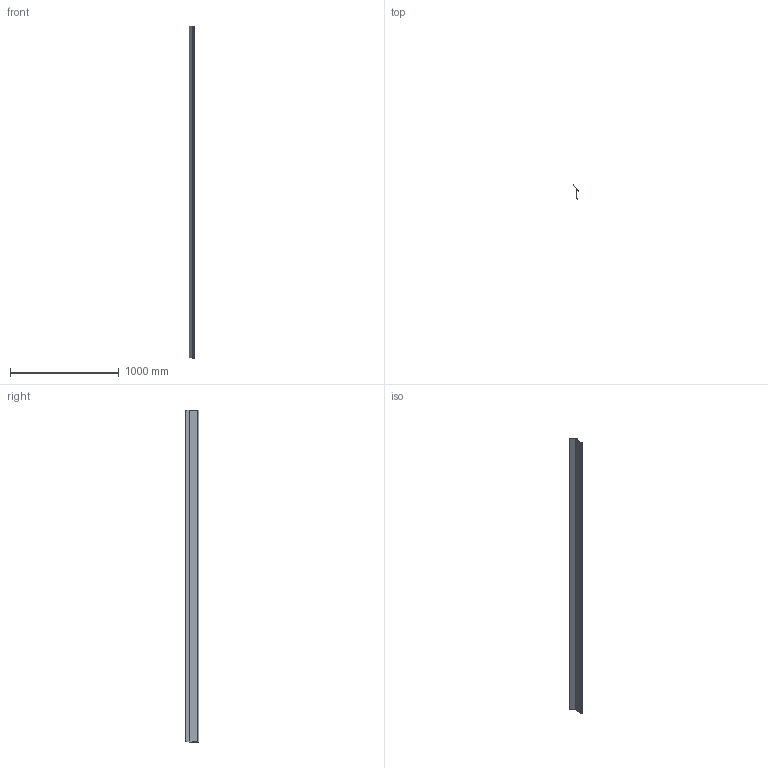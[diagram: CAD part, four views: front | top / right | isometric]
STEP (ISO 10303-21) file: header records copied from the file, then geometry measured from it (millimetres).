
FILE_DESCRIPTION (( 'STEP AP203' ), '1' );
FILE_NAME ('M59AB.3.STEP', '2018-06-15T18:47:34', ( 'Michael Moliner' ), ( '' ), 'SwSTEP 2.0', 'SolidWorks 2018', '' );
FILE_SCHEMA (( 'CONFIG_CONTROL_DESIGN' ));
Length unit declared in the file: inch
Products named in the file (2): M59AB.3
Bounding box: 53.74 x 123.72 x 3048 mm (x, y, z)
Volume: 317255.4 mm3; surface area: 1252342.1 mm2
Topology: 1 solids, 1 shells, 20 faces, 54 edges, 36 vertices
Faces by surface type: plane 14, cylinder 6
Entity records: 787 total; most frequent: CARTESIAN_POINT 112, DIRECTION 110, ORIENTED_EDGE 108, EDGE_CURVE 54, LINE 42, VECTOR 42, VERTEX_POINT 36, AXIS2_PLACEMENT_3D 34
